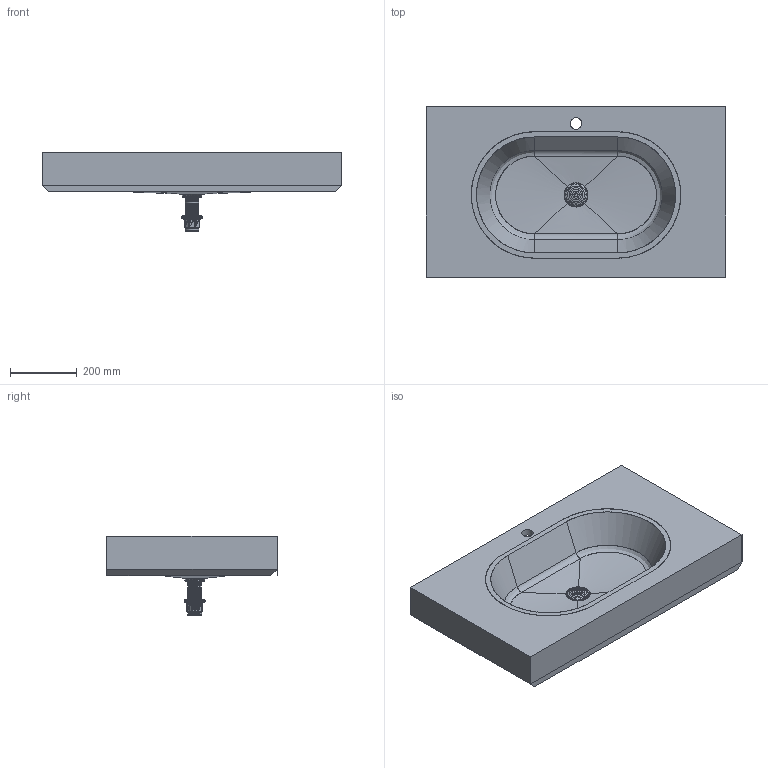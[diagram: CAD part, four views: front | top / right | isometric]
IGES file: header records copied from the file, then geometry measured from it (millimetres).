
Start section: Data from Parasolid IGES Translator 19.0.9, Copyright(c) 2006 Siemens PL M Software. All Rights Reserved.
Global section: file name: noorth-top-H 11,9 D 51,3 W 90_6545.igs; native system: By Siemens PLM Incorporated; preprocessor: XPlus GENERIC/IGES 19.0.9; author: Noname; organization: Noname; date: 20200603.093526; units: metre
Bounding box: 900 x 512 x 240 mm (x, y, z)
Volume: 8023352.1 mm3; surface area: 1683424.1 mm2
Topology: 1 solids, 1 shells, 11690 faces, 35203 edges, 35176 vertices
Faces by surface type: extrusion 11627, bspline 32, plane 18, revolution 10, cylinder 3
Full cylindrical faces by diameter (mm): 34.9 x1
